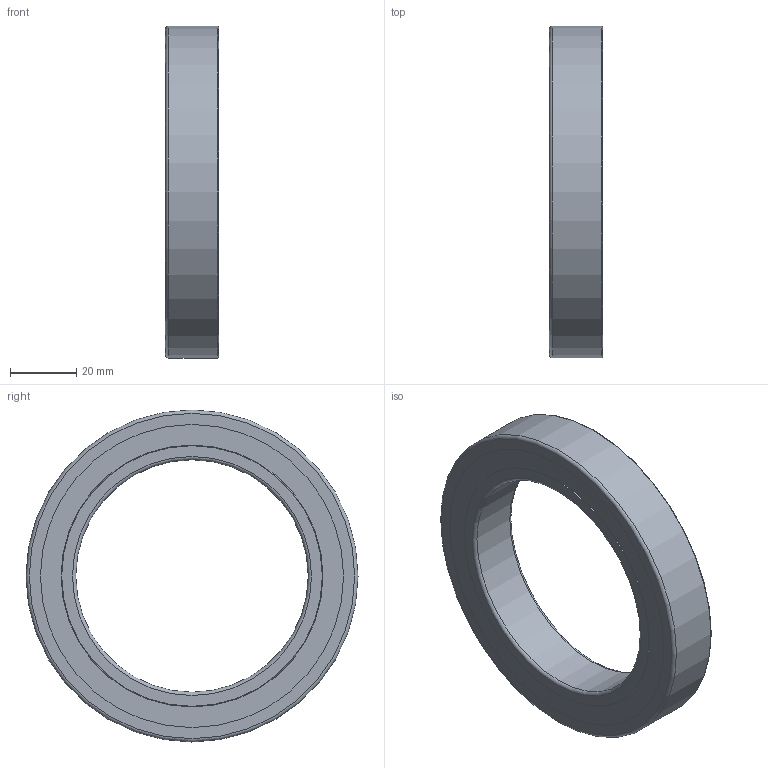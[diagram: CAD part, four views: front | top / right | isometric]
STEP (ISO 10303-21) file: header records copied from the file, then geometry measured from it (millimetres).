
FILE_DESCRIPTION(/* description */ (''),/* implementation_level */ '2;1');
FILE_NAME(/* name */ 'KH_61914_TA.step',/* time_stamp */ '2013-03-07T07:06:12+01:00',/* author */ ('Marian'),/* organization */ ('GMN'),/* preprocessor_version */ 'ST-DEVELOPER v11',/* originating_system */ 'SIEMENS UGS NX 6.0',/* authorisation */ '');
FILE_SCHEMA (('CONFIG_CONTROL_DESIGN'));
Length unit declared in the file: millimetre
Products named in the file (1): KH_61914_TA
Bounding box: 16 x 100 x 100 mm (x, y, z)
Volume: 51378.3 mm3; surface area: 39731.2 mm2
Topology: 37 solids, 37 shells, 96 faces, 248 edges, 162 vertices
Faces by surface type: cylinder 45, sphere 32, plane 12, torus 6, cone 1
Full cylindrical faces by diameter (mm): 6.55 x32, 70 x1, 78.5 x1, 78.9 x1, 80.1 x1, 80.5 x1, 83.99 x1, 87.88 x1, 88.28 x1, 91.3 x2, 93.4 x2, 100 x1
Entity records: 5670 total; most frequent: CARTESIAN_POINT 3969, DIRECTION 258, FACE_BOUND 224, EDGE_LOOP 192, ORIENTED_EDGE 192, AXIS2_PLACEMENT_3D 129, VERTEX_POINT 128, ADVANCED_FACE 96
